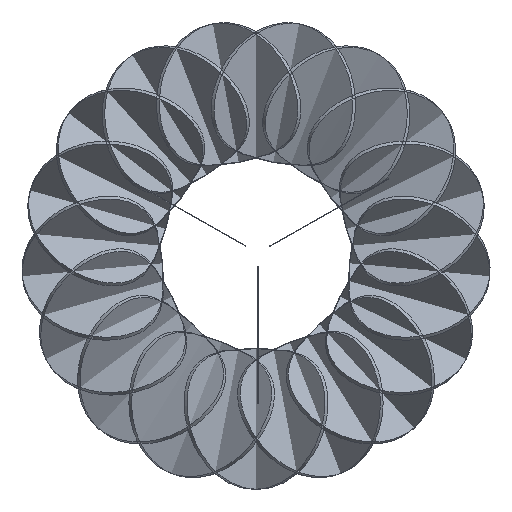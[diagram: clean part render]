
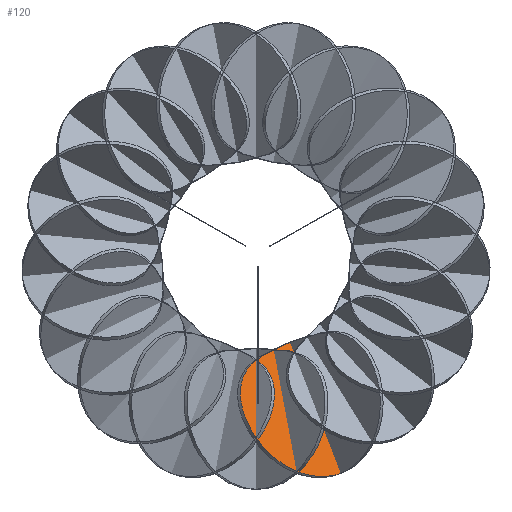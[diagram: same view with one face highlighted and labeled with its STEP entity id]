
A CAD part, top view. The second image highlights one B-rep face of the part: STEP entity #120.
In plain terms, the highlighted planar face has unit normal (0.659, 0.255, 0.707).
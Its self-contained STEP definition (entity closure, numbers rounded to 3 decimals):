
#120=ADVANCED_FACE('',(#268),#1577,.T.);
#268=FACE_OUTER_BOUND('',#416,.T.);
#416=EDGE_LOOP('',(#584,#585));
#584=ORIENTED_EDGE('',*,*,#1012,.T.);
#585=ORIENTED_EDGE('',*,*,#1015,.T.);
#1012=EDGE_CURVE('',#1433,#1435,#1234,.T.);
#1015=EDGE_CURVE('',#1435,#1433,#1237,.T.);
#1234=B_SPLINE_CURVE_WITH_KNOTS('',3,(#3151,#3152,#3153,#3154,#3155,#3156,
#3157,#3158,#3159,#3160,#3161,#3162,#3163,#3164,#3165,#3166,#3167,#3168,
#3169,#3170,#3171,#3172,#3173,#3174,#3175,#3176,#3177,#3178,#3179,#3180,
#3181,#3182,#3183,#3184,#3185,#3186,#3187,#3188,#3189,#3190,#3191,#3192,
#3193,#3194,#3195,#3196,#3197,#3198,#3199,#3200,#3201,#3202,#3203,#3204,
#3205),.UNSPECIFIED.,.F.,.F.,(4,3,3,3,3,3,3,3,3,3,3,3,3,3,3,3,3,3,4),(0.,
19.097,38.135,57.179,76.229,114.209,
152.373,183.021,213.782,244.399,274.907,
311.464,348.026,384.508,420.998,462.023,
503.053,544.07,585.088),.UNSPECIFIED.);
#1237=B_SPLINE_CURVE_WITH_KNOTS('',3,(#3263,#3264,#3265,#3266,#3267,#3268,
#3269,#3270,#3271,#3272,#3273,#3274,#3275,#3276,#3277,#3278,#3279,#3280,
#3281,#3282,#3283,#3284,#3285,#3286,#3287,#3288,#3289,#3290,#3291,#3292,
#3293,#3294,#3295,#3296,#3297,#3298,#3299,#3300,#3301,#3302,#3303,#3304,
#3305,#3306,#3307,#3308,#3309,#3310,#3311,#3312,#3313,#3314,#3315,#3316,
#3317),.UNSPECIFIED.,.F.,.F.,(4,3,3,3,3,3,3,3,3,3,3,3,3,3,3,3,3,3,4),(585.088,
626.106,667.123,708.152,749.178,785.668,
822.149,858.712,895.269,925.777,956.394,
987.155,1017.803,1055.967,1093.946,1112.996,
1132.04,1151.078,1170.176),.UNSPECIFIED.);
#1433=VERTEX_POINT('',#3091);
#1435=VERTEX_POINT('',#3093);
#1577=PLANE('',#1807);
#1807=AXIS2_PLACEMENT_3D('',#2979,#1890,$);
#1890=DIRECTION('',(0.659,0.255,0.707));
#2979=CARTESIAN_POINT('',(5124.068,-218.11,355.934));
#3091=CARTESIAN_POINT('',(5312.453,-185.345,168.434));
#3093=CARTESIAN_POINT('',(5420.825,-465.087,168.434));
#3151=CARTESIAN_POINT('',(5312.453,-185.345,168.434));
#3152=CARTESIAN_POINT('',(5308.278,-186.962,172.911));
#3153=CARTESIAN_POINT('',(5304.12,-188.626,177.389));
#3154=CARTESIAN_POINT('',(5299.984,-190.339,181.865));
#3155=CARTESIAN_POINT('',(5295.859,-192.047,186.328));
#3156=CARTESIAN_POINT('',(5291.716,-193.821,190.832));
#3157=CARTESIAN_POINT('',(5287.637,-195.639,195.292));
#3158=CARTESIAN_POINT('',(5283.557,-197.458,199.754));
#3159=CARTESIAN_POINT('',(5279.466,-199.354,204.253));
#3160=CARTESIAN_POINT('',(5275.446,-201.315,208.71));
#3161=CARTESIAN_POINT('',(5271.425,-203.276,213.168));
#3162=CARTESIAN_POINT('',(5267.408,-205.334,217.658));
#3163=CARTESIAN_POINT('',(5263.473,-207.488,222.105));
#3164=CARTESIAN_POINT('',(5255.629,-211.781,230.97));
#3165=CARTESIAN_POINT('',(5247.775,-216.633,240.046));
#3166=CARTESIAN_POINT('',(5240.567,-222.177,248.77));
#3167=CARTESIAN_POINT('',(5233.325,-227.748,257.536));
#3168=CARTESIAN_POINT('',(5226.443,-234.236,266.297));
#3169=CARTESIAN_POINT('',(5220.654,-242.,274.5));
#3170=CARTESIAN_POINT('',(5215.998,-248.244,281.097));
#3171=CARTESIAN_POINT('',(5212.063,-255.292,287.312));
#3172=CARTESIAN_POINT('',(5209.174,-263.343,292.915));
#3173=CARTESIAN_POINT('',(5206.274,-271.425,298.538));
#3174=CARTESIAN_POINT('',(5204.535,-280.221,303.337));
#3175=CARTESIAN_POINT('',(5204.045,-289.713,307.224));
#3176=CARTESIAN_POINT('',(5203.556,-299.161,311.092));
#3177=CARTESIAN_POINT('',(5204.324,-308.945,313.91));
#3178=CARTESIAN_POINT('',(5206.171,-318.815,315.753));
#3179=CARTESIAN_POINT('',(5208.012,-328.651,317.59));
#3180=CARTESIAN_POINT('',(5210.897,-338.434,318.434));
#3181=CARTESIAN_POINT('',(5214.568,-347.91,318.434));
#3182=CARTESIAN_POINT('',(5218.967,-359.264,318.434));
#3183=CARTESIAN_POINT('',(5224.491,-370.177,317.225));
#3184=CARTESIAN_POINT('',(5230.762,-380.371,315.059));
#3185=CARTESIAN_POINT('',(5237.035,-390.567,312.894));
#3186=CARTESIAN_POINT('',(5244.08,-400.088,309.764));
#3187=CARTESIAN_POINT('',(5251.628,-408.788,305.869));
#3188=CARTESIAN_POINT('',(5259.158,-417.469,301.983));
#3189=CARTESIAN_POINT('',(5267.206,-425.355,297.326));
#3190=CARTESIAN_POINT('',(5275.578,-432.369,292.054));
#3191=CARTESIAN_POINT('',(5283.952,-439.385,286.78));
#3192=CARTESIAN_POINT('',(5292.654,-445.534,280.887));
#3193=CARTESIAN_POINT('',(5301.533,-450.774,274.5));
#3194=CARTESIAN_POINT('',(5311.537,-456.678,267.304));
#3195=CARTESIAN_POINT('',(5321.757,-461.425,259.489));
#3196=CARTESIAN_POINT('',(5332.021,-464.989,251.206));
#3197=CARTESIAN_POINT('',(5342.285,-468.553,242.923));
#3198=CARTESIAN_POINT('',(5352.574,-470.929,234.187));
#3199=CARTESIAN_POINT('',(5362.74,-472.115,225.136));
#3200=CARTESIAN_POINT('',(5372.902,-473.3,216.088));
#3201=CARTESIAN_POINT('',(5382.917,-473.292,206.747));
#3202=CARTESIAN_POINT('',(5392.653,-472.111,197.241));
#3203=CARTESIAN_POINT('',(5402.389,-470.929,187.736));
#3204=CARTESIAN_POINT('',(5411.82,-468.575,178.091));
#3205=CARTESIAN_POINT('',(5420.825,-465.087,168.434));
#3263=CARTESIAN_POINT('',(5420.825,-465.087,168.434));
#3264=CARTESIAN_POINT('',(5429.831,-461.598,158.776));
#3265=CARTESIAN_POINT('',(5438.386,-456.983,149.132));
#3266=CARTESIAN_POINT('',(5446.377,-451.298,139.626));
#3267=CARTESIAN_POINT('',(5454.368,-445.612,130.121));
#3268=CARTESIAN_POINT('',(5461.774,-438.871,120.78));
#3269=CARTESIAN_POINT('',(5468.486,-431.149,111.732));
#3270=CARTESIAN_POINT('',(5475.2,-423.424,102.681));
#3271=CARTESIAN_POINT('',(5481.203,-414.737,93.945));
#3272=CARTESIAN_POINT('',(5486.387,-405.187,85.661));
#3273=CARTESIAN_POINT('',(5491.57,-395.639,77.378));
#3274=CARTESIAN_POINT('',(5495.925,-385.246,69.563));
#3275=CARTESIAN_POINT('',(5499.341,-374.143,62.368));
#3276=CARTESIAN_POINT('',(5502.372,-364.288,55.981));
#3277=CARTESIAN_POINT('',(5504.661,-353.882,50.088));
#3278=CARTESIAN_POINT('',(5506.122,-343.056,44.814));
#3279=CARTESIAN_POINT('',(5507.584,-332.232,39.541));
#3280=CARTESIAN_POINT('',(5508.219,-320.983,34.885));
#3281=CARTESIAN_POINT('',(5507.936,-309.494,30.999));
#3282=CARTESIAN_POINT('',(5507.652,-297.98,27.104));
#3283=CARTESIAN_POINT('',(5506.444,-286.197,23.974));
#3284=CARTESIAN_POINT('',(5504.211,-274.437,21.808));
#3285=CARTESIAN_POINT('',(5501.978,-262.678,19.643));
#3286=CARTESIAN_POINT('',(5498.708,-250.891,18.434));
#3287=CARTESIAN_POINT('',(5494.31,-239.538,18.434));
#3288=CARTESIAN_POINT('',(5490.639,-230.062,18.434));
#3289=CARTESIAN_POINT('',(5486.18,-220.888,19.277));
#3290=CARTESIAN_POINT('',(5480.914,-212.38,21.114));
#3291=CARTESIAN_POINT('',(5475.629,-203.841,22.958));
#3292=CARTESIAN_POINT('',(5469.606,-196.093,25.776));
#3293=CARTESIAN_POINT('',(5462.88,-189.44,29.644));
#3294=CARTESIAN_POINT('',(5456.122,-182.756,33.531));
#3295=CARTESIAN_POINT('',(5448.911,-177.426,38.33));
#3296=CARTESIAN_POINT('',(5441.324,-173.408,43.953));
#3297=CARTESIAN_POINT('',(5433.764,-169.405,49.556));
#3298=CARTESIAN_POINT('',(5426.108,-166.847,55.771));
#3299=CARTESIAN_POINT('',(5418.461,-165.369,62.368));
#3300=CARTESIAN_POINT('',(5408.953,-163.532,70.57));
#3301=CARTESIAN_POINT('',(5399.496,-163.373,79.331));
#3302=CARTESIAN_POINT('',(5390.39,-164.135,88.098));
#3303=CARTESIAN_POINT('',(5381.329,-164.894,96.821));
#3304=CARTESIAN_POINT('',(5372.256,-166.599,105.897));
#3305=CARTESIAN_POINT('',(5363.566,-168.711,114.763));
#3306=CARTESIAN_POINT('',(5359.208,-169.771,119.21));
#3307=CARTESIAN_POINT('',(5354.853,-170.956,123.699));
#3308=CARTESIAN_POINT('',(5350.56,-172.216,128.157));
#3309=CARTESIAN_POINT('',(5346.268,-173.475,132.614));
#3310=CARTESIAN_POINT('',(5341.968,-174.829,137.113));
#3311=CARTESIAN_POINT('',(5337.727,-176.234,141.575));
#3312=CARTESIAN_POINT('',(5333.487,-177.638,146.036));
#3313=CARTESIAN_POINT('',(5329.23,-179.119,150.54));
#3314=CARTESIAN_POINT('',(5325.032,-180.635,155.003));
#3315=CARTESIAN_POINT('',(5320.821,-182.156,159.479));
#3316=CARTESIAN_POINT('',(5316.627,-183.728,163.957));
#3317=CARTESIAN_POINT('',(5312.453,-185.345,168.434));
